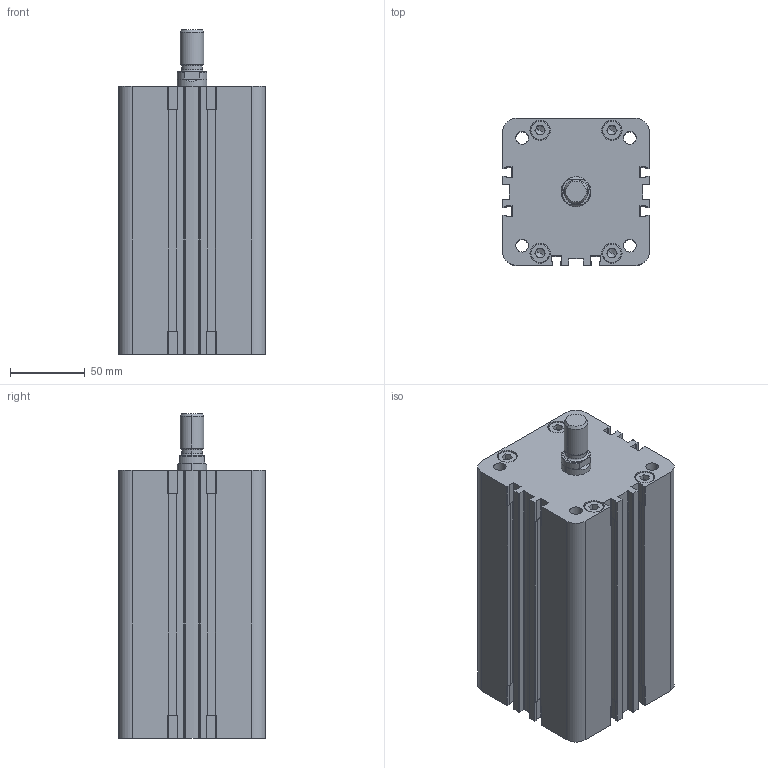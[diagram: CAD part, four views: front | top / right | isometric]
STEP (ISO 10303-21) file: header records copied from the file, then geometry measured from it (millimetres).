
FILE_DESCRIPTION (( 'STEP AP203' ), '1' );
FILE_NAME ('WFM0800125A.step', '2013-04-22T07:21:05', ( '' ), ( '' ), 'SwSTEP 2.0', 'SolidWorks 2012', '' );
FILE_SCHEMA (( 'CONFIG_CONTROL_DESIGN' ));
Length unit declared in the file: millimetre
Products named in the file (1): WFM0800125A
Bounding box: 98 x 98 x 217 mm (x, y, z)
Volume: 1604026.4 mm3; surface area: 133691.8 mm2
Topology: 1 solids, 1 shells, 561 faces, 1507 edges, 961 vertices
Faces by surface type: plane 280, cylinder 227, cone 34, torus 20
Entity records: 17661 total; most frequent: CARTESIAN_POINT 3164, DIRECTION 3144, ORIENTED_EDGE 2982, EDGE_CURVE 1491, AXIS2_PLACEMENT_3D 1109, VERTEX_POINT 961, LINE 926, VECTOR 926
